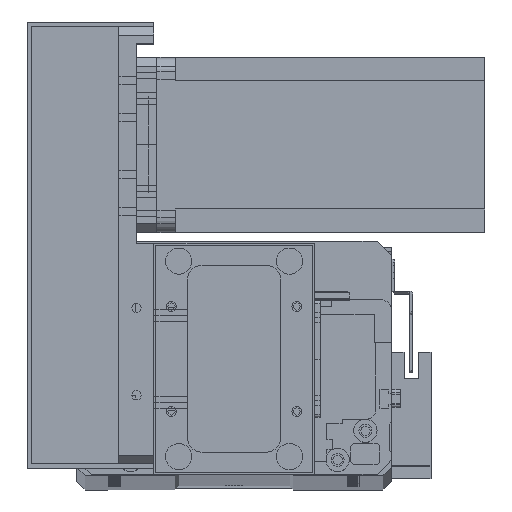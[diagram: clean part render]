
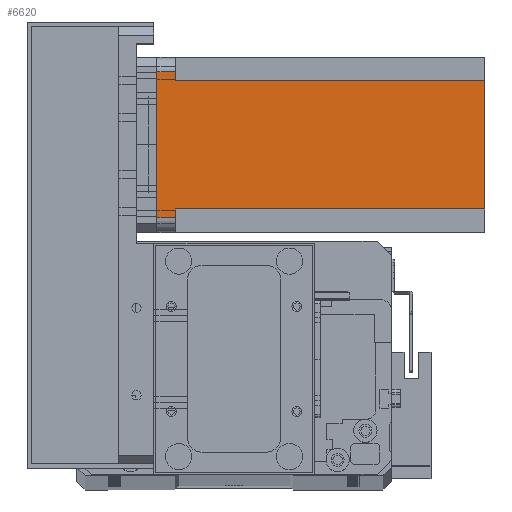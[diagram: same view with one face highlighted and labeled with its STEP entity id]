
A CAD part, top view. The second image highlights one B-rep face of the part: STEP entity #6620.
In plain terms, the highlighted planar face has unit normal (0, 0, 1) as drawn and (0, -1, 0) by its records, which use the part's own axes.
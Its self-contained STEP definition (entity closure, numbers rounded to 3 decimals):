
#217 = CARTESIAN_POINT ( 'NONE',  ( 8., 0., -112.5 ) ) ;
#246 = CARTESIAN_POINT ( 'NONE',  ( 0., 0., -112.5 ) ) ;
#726 = VERTEX_POINT ( 'NONE', #23449 ) ;
#914 = ORIENTED_EDGE ( 'NONE', *, *, #29477, .T. ) ;
#1138 = LINE ( 'NONE', #22269, #28634 ) ;
#2233 = VECTOR ( 'NONE', #12337, 1000. ) ;
#2976 = DIRECTION ( 'NONE',  ( 0., -1., 0. ) ) ;
#3007 = VECTOR ( 'NONE', #15462, 1000. ) ;
#3481 = CARTESIAN_POINT ( 'NONE',  ( 52., 0., -6.5 ) ) ;
#3567 = EDGE_CURVE ( 'NONE', #23258, #726, #12751, .T. ) ;
#4824 = VECTOR ( 'NONE', #23119, 1000. ) ;
#5315 = EDGE_CURVE ( 'NONE', #23258, #20247, #17186, .T. ) ;
#6620 = ADVANCED_FACE ( 'NONE', ( #24606 ), #16285, .T. ) ;
#6704 = ORIENTED_EDGE ( 'NONE', *, *, #34436, .F. ) ;
#6737 = CARTESIAN_POINT ( 'NONE',  ( 55., 0., -6.5 ) ) ;
#7782 = CARTESIAN_POINT ( 'NONE',  ( 55., 0., -112.5 ) ) ;
#8768 = CARTESIAN_POINT ( 'NONE',  ( 55., 0., 0. ) ) ;
#9428 = ORIENTED_EDGE ( 'NONE', *, *, #18650, .F. ) ;
#10602 = VERTEX_POINT ( 'NONE', #32260 ) ;
#10724 = DIRECTION ( 'NONE',  ( 1., 0., 0. ) ) ;
#11075 = VERTEX_POINT ( 'NONE', #6737 ) ;
#11295 = LINE ( 'NONE', #19464, #18373 ) ;
#11654 = DIRECTION ( 'NONE',  ( 0., 0., -1. ) ) ;
#12337 = DIRECTION ( 'NONE',  ( 1., 0., 0. ) ) ;
#12401 = CARTESIAN_POINT ( 'NONE',  ( 52., 0., -112.5 ) ) ;
#12463 = EDGE_CURVE ( 'NONE', #20247, #22840, #11295, .T. ) ;
#12751 = LINE ( 'NONE', #26702, #4824 ) ;
#14140 = DIRECTION ( 'NONE',  ( -1., 0., 0. ) ) ;
#14197 = CARTESIAN_POINT ( 'NONE',  ( 5., 0., -6.5 ) ) ;
#14278 = EDGE_CURVE ( 'NONE', #10602, #22840, #1138, .T. ) ;
#15056 = CARTESIAN_POINT ( 'NONE',  ( 52., 0., -6.5 ) ) ;
#15125 = DIRECTION ( 'NONE',  ( 0., 0., -1. ) ) ;
#15462 = DIRECTION ( 'NONE',  ( 0., 0., 1. ) ) ;
#15714 = CARTESIAN_POINT ( 'NONE',  ( 8., 0., -112.5 ) ) ;
#16285 = PLANE ( 'NONE',  #32006 ) ;
#17186 = LINE ( 'NONE', #15714, #3007 ) ;
#18373 = VECTOR ( 'NONE', #14140, 1000. ) ;
#18435 = ORIENTED_EDGE ( 'NONE', *, *, #21373, .T. ) ;
#18650 = EDGE_CURVE ( 'NONE', #10602, #29264, #24759, .T. ) ;
#19189 = LINE ( 'NONE', #7782, #20852 ) ;
#19464 = CARTESIAN_POINT ( 'NONE',  ( 8., 0., -6.5 ) ) ;
#20247 = VERTEX_POINT ( 'NONE', #23053 ) ;
#20852 = VECTOR ( 'NONE', #23706, 1000. ) ;
#21373 = EDGE_CURVE ( 'NONE', #11075, #29264, #19189, .T. ) ;
#21595 = DIRECTION ( 'NONE',  ( 0., 0., -1. ) ) ;
#22269 = CARTESIAN_POINT ( 'NONE',  ( 5., 0., -112.5 ) ) ;
#22840 = VERTEX_POINT ( 'NONE', #14197 ) ;
#23053 = CARTESIAN_POINT ( 'NONE',  ( 8., 0., -6.5 ) ) ;
#23119 = DIRECTION ( 'NONE',  ( 1., 0., 0. ) ) ;
#23258 = VERTEX_POINT ( 'NONE', #217 ) ;
#23449 = CARTESIAN_POINT ( 'NONE',  ( 52., 0., -112.5 ) ) ;
#23491 = LINE ( 'NONE', #15056, #2233 ) ;
#23706 = DIRECTION ( 'NONE',  ( 0., 0., 1. ) ) ;
#23892 = VECTOR ( 'NONE', #10724, 1000. ) ;
#24606 = FACE_OUTER_BOUND ( 'NONE', #30917, .T. ) ;
#24759 = LINE ( 'NONE', #26649, #23892 ) ;
#24952 = VECTOR ( 'NONE', #15125, 1000. ) ;
#24954 = ORIENTED_EDGE ( 'NONE', *, *, #14278, .T. ) ;
#25782 = LINE ( 'NONE', #12401, #24952 ) ;
#26145 = ORIENTED_EDGE ( 'NONE', *, *, #3567, .T. ) ;
#26649 = CARTESIAN_POINT ( 'NONE',  ( 0., 0., 0. ) ) ;
#26702 = CARTESIAN_POINT ( 'NONE',  ( 0., 0., -112.5 ) ) ;
#27034 = VERTEX_POINT ( 'NONE', #3481 ) ;
#28006 = ORIENTED_EDGE ( 'NONE', *, *, #5315, .F. ) ;
#28634 = VECTOR ( 'NONE', #11654, 1000. ) ;
#29264 = VERTEX_POINT ( 'NONE', #8768 ) ;
#29477 = EDGE_CURVE ( 'NONE', #27034, #11075, #23491, .T. ) ;
#30917 = EDGE_LOOP ( 'NONE', ( #914, #18435, #9428, #24954, #34132, #28006, #26145, #6704 ) ) ;
#32006 = AXIS2_PLACEMENT_3D ( 'NONE', #246, #2976, #21595 ) ;
#32260 = CARTESIAN_POINT ( 'NONE',  ( 5., 0., 0. ) ) ;
#34132 = ORIENTED_EDGE ( 'NONE', *, *, #12463, .F. ) ;
#34436 = EDGE_CURVE ( 'NONE', #27034, #726, #25782, .T. ) ;
